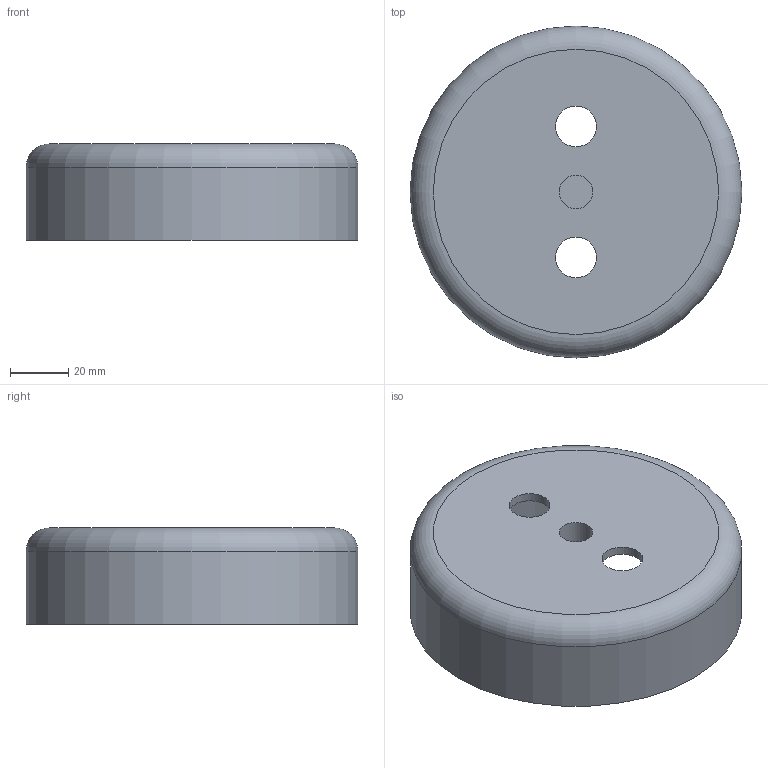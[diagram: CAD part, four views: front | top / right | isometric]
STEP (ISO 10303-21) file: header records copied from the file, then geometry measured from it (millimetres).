
FILE_DESCRIPTION(('Open CASCADE Model'),'2;1');
FILE_NAME('Open CASCADE Shape Model','2026-10-31T13:13:33',('Author'),( 'Open CASCADE'),'Open CASCADE STEP processor 7.9','Open CASCADE 7.9' ,'Unknown');
FILE_SCHEMA(('AUTOMOTIVE_DESIGN { 1 0 10303 214 1 1 1 1 }'));
Length unit declared in the file: millimetre
Products named in the file (1): Open CASCADE STEP translator 7.9 3
Bounding box: 114 x 114 x 33 mm (x, y, z)
Volume: 57785 mm3; surface area: 41885.3 mm2
Topology: 1 solids, 1 shells, 12 faces, 20 edges, 13 vertices
Faces by surface type: cylinder 6, plane 5, torus 1
Full cylindrical faces by diameter (mm): 11.5 x1, 14 x2, 17.5 x1, 108 x1, 114 x1
Entity records: 566 total; most frequent: DIRECTION 98, CARTESIAN_POINT 88, ORIENTED_EDGE 40, PCURVE 40, DEFINITIONAL_REPRESENTATION 40, LINE 32, VECTOR 32, AXIS2_PLACEMENT_3D 27
